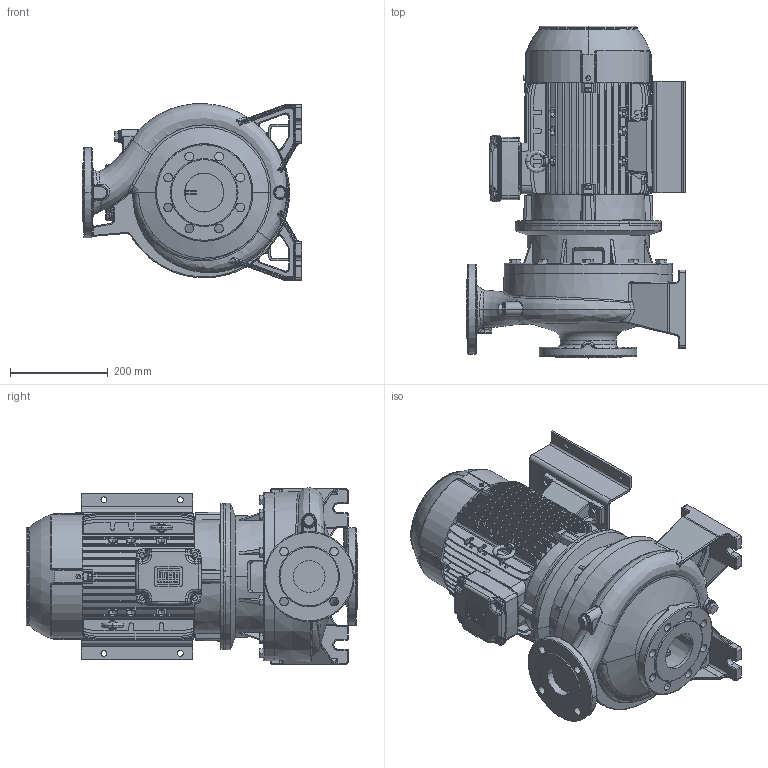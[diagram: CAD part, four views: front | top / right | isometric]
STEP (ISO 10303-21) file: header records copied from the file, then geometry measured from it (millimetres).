
FILE_DESCRIPTION (( 'STEP AP214' ), '1' );
FILE_NAME ('3LS4 65-250_5.5_(132S)_W21.STEP', '2026-10-05T01:34:04', ( '' ), ( '' ), 'SwSTEP 2.0', 'SolidWorks 2024', '' );
FILE_SCHEMA (( 'AUTOMOTIVE_DESIGN' ));
Length unit declared in the file: inch
Products named in the file (3): 3LS4 65-250_5.5_(132S)_W21; 132S ALIE3_W21T_B35; 3SF4_65-250_5_5
Assembly tree (2 placements, depth 2):
  3LS4 65-250_5.5_(132S)_W21
    3SF4_65-250_5_5
    132S ALIE3_W21T_B35
Bounding box: 450 x 680.65 x 362.27 mm (x, y, z)
Volume: 36057114.7 mm3; surface area: 2356386.8 mm2
Topology: 10 solids, 10 shells, 4228 faces, 10778 edges, 6878 vertices
Faces by surface type: plane 2688, cylinder 730, bspline 368, torus 238, cone 158, sphere 46
Entity records: 160677 total; most frequent: CARTESIAN_POINT 61701, ORIENTED_EDGE 21508, DIRECTION 18863, EDGE_CURVE 10754, VECTOR 7145, LINE 7145, VERTEX_POINT 6878, AXIS2_PLACEMENT_3D 5859
